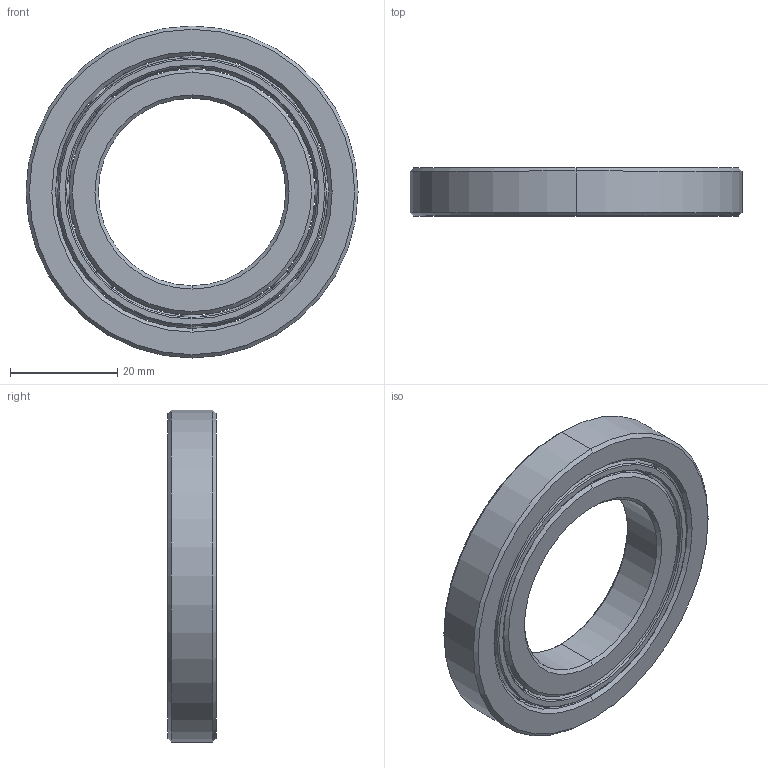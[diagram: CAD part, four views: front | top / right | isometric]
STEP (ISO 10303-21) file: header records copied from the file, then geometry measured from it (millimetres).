
FILE_DESCRIPTION (( 'STEP AP214' ), '1' );
FILE_NAME ('16007 BEARING V3 STYLE.STEP', '2022-02-15T23:40:12', ( '' ), ( '' ), 'SwSTEP 2.0', 'SolidWorks 2019', '' );
FILE_SCHEMA (( 'AUTOMOTIVE_DESIGN' ));
Length unit declared in the file: millimetre
Products named in the file (1): 16007 BEARING V3 STYLE
Bounding box: 62 x 9 x 62 mm (x, y, z)
Volume: 16223.5 mm3; surface area: 12496.8 mm2
Topology: 12 solids, 12 shells, 296 faces, 852 edges, 530 vertices
Faces by surface type: cone 132, sphere 80, cylinder 56, plane 22, torus 6
Entity records: 10903 total; most frequent: CARTESIAN_POINT 2905, ORIENTED_EDGE 1560, DIRECTION 1454, EDGE_CURVE 780, AXIS2_PLACEMENT_3D 683, VERTEX_POINT 506, CIRCLE 386, B_SPLINE_CURVE_WITH_KNOTS 306
